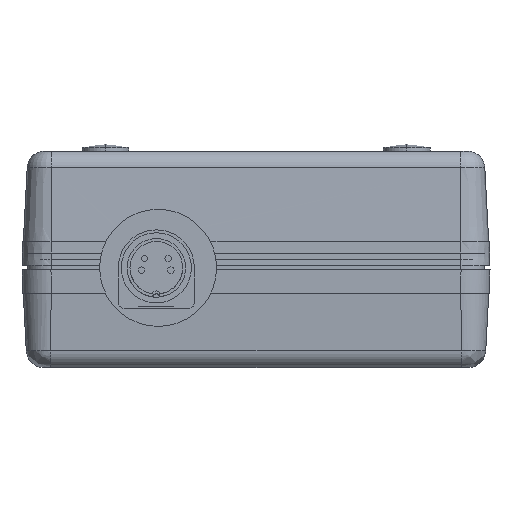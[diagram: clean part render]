
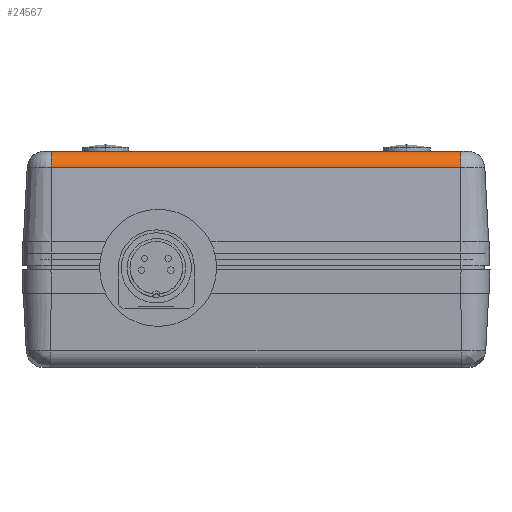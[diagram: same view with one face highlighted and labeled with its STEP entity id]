
A CAD part, front view. The second image highlights one B-rep face of the part: STEP entity #24567.
In plain terms, the highlighted cylindrical face has radius 3 mm (diameter 6 mm), a partial arc.
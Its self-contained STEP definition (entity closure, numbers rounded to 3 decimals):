
#3149 = DIRECTION ( 'NONE',  ( 0., -1., 0. ) ) ;
#3152 = CARTESIAN_POINT ( 'NONE',  ( -96.105, -35.479, -20. ) ) ;
#3473 = ORIENTED_EDGE ( 'NONE', *, *, #87986, .F. ) ;
#3476 = ORIENTED_EDGE ( 'NONE', *, *, #87983, .T. ) ;
#3479 = ORIENTED_EDGE ( 'NONE', *, *, #87985, .F. ) ;
#3482 = ORIENTED_EDGE ( 'NONE', *, *, #3984, .T. ) ;
#3984 = EDGE_CURVE ( 'NONE', #7959, #7958, #60293, .T. ) ;
#7958 = VERTEX_POINT ( 'NONE', #56267 ) ;
#7959 = VERTEX_POINT ( 'NONE', #56266 ) ;
#20721 = CARTESIAN_POINT ( 'NONE',  ( -99.101, 35., -17.157 ) ) ;
#20723 = CARTESIAN_POINT ( 'NONE',  ( -99.101, -35., -17.157 ) ) ;
#24567 = ADVANCED_FACE ( 'NONE', ( #60569 ), #60570, .T. ) ;
#32370 = VECTOR ( 'NONE', #3149, 1000. ) ;
#33378 = AXIS2_PLACEMENT_3D ( 'NONE', #71679, #71594, #71720 ) ;
#37546 = EDGE_LOOP ( 'NONE', ( #3476, #3479, #3473, #3482 ) ) ;
#52084 = VERTEX_POINT ( 'NONE', #20721 ) ;
#52089 = VERTEX_POINT ( 'NONE', #20723 ) ;
#56266 = CARTESIAN_POINT ( 'NONE',  ( -96.105, 35., -20. ) ) ;
#56267 = CARTESIAN_POINT ( 'NONE',  ( -96.105, -35., -20. ) ) ;
#60293 = LINE ( 'NONE', #3152, #32370 ) ;
#60569 = FACE_OUTER_BOUND ( 'NONE', #37546, .T. ) ;
#60570 = CYLINDRICAL_SURFACE ( 'NONE', #33378, 3. ) ;
#64802 = LINE ( 'NONE', #66106, #92846 ) ;
#66100 = CARTESIAN_POINT ( 'NONE',  ( -96.105, -35., -17. ) ) ;
#66101 = DIRECTION ( 'NONE',  ( 0., 1., 0. ) ) ;
#66102 = DIRECTION ( 'NONE',  ( 0., 0., 1. ) ) ;
#66106 = CARTESIAN_POINT ( 'NONE',  ( -99.101, 35., -17.157 ) ) ;
#66107 = DIRECTION ( 'NONE',  ( 0., -1., 0. ) ) ;
#66108 = CARTESIAN_POINT ( 'NONE',  ( -96.105, 35., -17. ) ) ;
#66109 = DIRECTION ( 'NONE',  ( 0., 1., 0. ) ) ;
#66110 = DIRECTION ( 'NONE',  ( -1., 0., 0. ) ) ;
#71594 = DIRECTION ( 'NONE',  ( 0., 1., 0. ) ) ;
#71679 = CARTESIAN_POINT ( 'NONE',  ( -96.105, -35.479, -17. ) ) ;
#71720 = DIRECTION ( 'NONE',  ( 0., 0., 1. ) ) ;
#87983 = EDGE_CURVE ( 'NONE', #7958, #52089, #92834, .T. ) ;
#87985 = EDGE_CURVE ( 'NONE', #52084, #52089, #64802, .T. ) ;
#87986 = EDGE_CURVE ( 'NONE', #7959, #52084, #92845, .T. ) ;
#92834 = CIRCLE ( 'NONE', #92842, 3. ) ;
#92842 = AXIS2_PLACEMENT_3D ( 'NONE', #66100, #66101, #66102 ) ;
#92845 = CIRCLE ( 'NONE', #92847, 3. ) ;
#92846 = VECTOR ( 'NONE', #66107, 1000. ) ;
#92847 = AXIS2_PLACEMENT_3D ( 'NONE', #66108, #66109, #66110 ) ;
